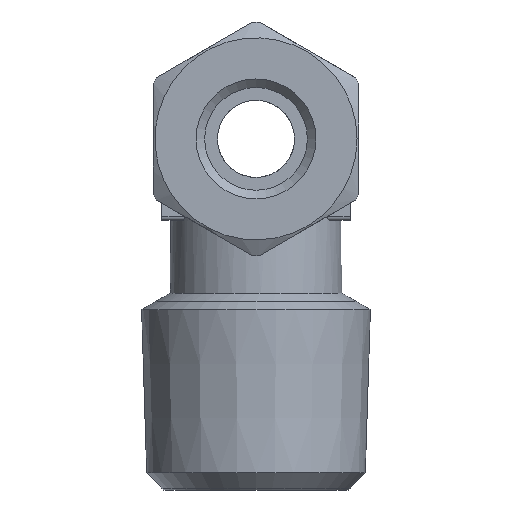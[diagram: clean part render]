
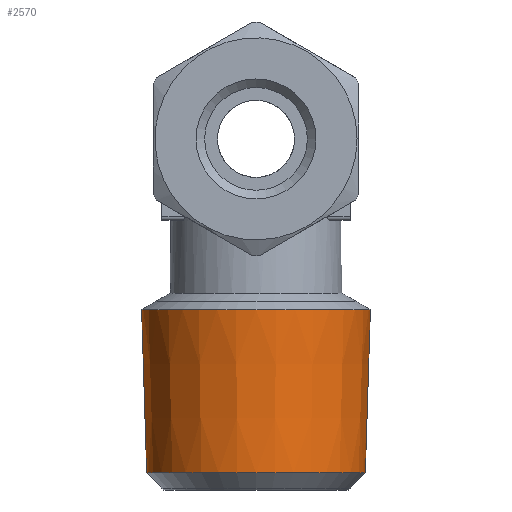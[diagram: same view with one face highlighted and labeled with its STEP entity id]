
A CAD part, left-side view. The second image highlights one B-rep face of the part: STEP entity #2570.
In plain terms, the highlighted conical face has half-angle 1.79 degrees and reference radius 6.679 mm.
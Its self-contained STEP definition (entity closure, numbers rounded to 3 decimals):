
#2570=ADVANCED_FACE('', (#2580,#2590), #2600, .T.);
#10160=AXIS2_PLACEMENT_3D('Ax2Pl3d', #10170, #10180, #10190);
#10200=AXIS2_PLACEMENT_3D('Ax2Pl3d', #10210, #10220, #10230);
#10240=AXIS2_PLACEMENT_3D('Ax2Pl3d', #10250, #10260, #10270);
#10170=CARTESIAN_POINT('HicPkt', (32.294,0.,18.966));
#58810=CARTESIAN_POINT('', (32.294,-6.679,18.966));
#10210=CARTESIAN_POINT('HicPkt', (32.294,0.,18.966));
#10250=CARTESIAN_POINT('HicPkt', (32.294,0.,9.435));
#58820=CARTESIAN_POINT('', (32.294,-6.382,9.435));
#60470=CIRCLE('Circle', #10160, 6.679);
#60480=CIRCLE('Circle', #10240, 6.382);
#2600=CONICAL_SURFACE('Kegel', #10200, 6.679, 
0.031);
#10180=DIRECTION('Axis', (0.,0.,1.));
#10190=DIRECTION('RefDirection', (1.,0.,-0.));
#10220=DIRECTION('Axis', (0.,0.,1.));
#10230=DIRECTION('RefDirection', (1.,0.,-0.));
#10260=DIRECTION('Axis', (0.,0.,-1.));
#10270=DIRECTION('RefDirection', (-1.,-0.,0.));
#72470=EDGE_CURVE('', #72480, #72480, #60470, .T.);
#72490=EDGE_CURVE('', #72500, #72500, #60480, .T.);
#78450=EDGE_LOOP('Edge_loop', (#78460));
#78470=EDGE_LOOP('Edge_loop', (#78480));
#2590=FACE_BOUND('', #78470, .T.);
#2580=FACE_OUTER_BOUND('Face_outer_bound', #78450, .T.);
#78460=ORIENTED_EDGE('', *, *, #72470, .F.);
#78480=ORIENTED_EDGE('', *, *, #72490, .F.);
#72480=VERTEX_POINT('', #58810);
#72500=VERTEX_POINT('', #58820);
